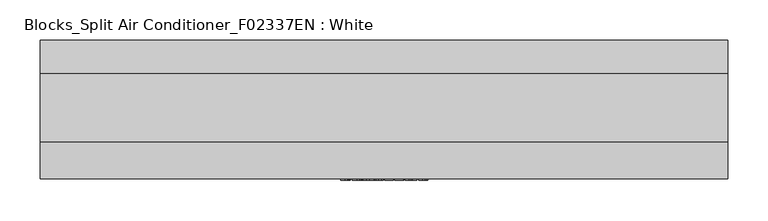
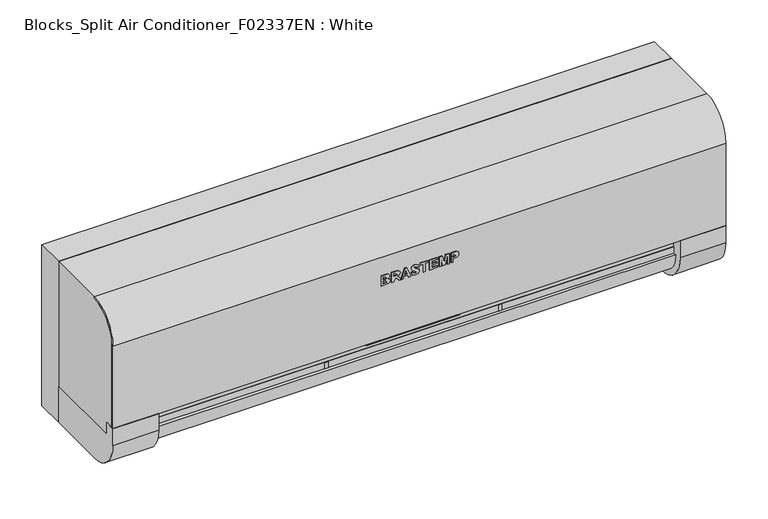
"""IFC4 building model written with IfcOpenShell, lengths in millimetres: proxy geometry, Blocks_Split Air Conditioner_F02337EN : White."""

from ifc_helpers import new_model, si_unit, point, frame, frame_2d, origin, place, context, project, spatial, polyline, circle_curve, trimmed, segment, composite_curve, outline, extrude, source, transform, mapped, element, save
from ifc_brep_helpers import plane_surface, cylinder_surface, advanced_brep


def blocks_split_air_conditioner_f02337en_white_d5d559fb(model_context):
    return source(origin(), model_context, "Body", "SolidModel", [
        extrude(outline(composite_curve([segment(polyline([(-156.1791575, 2042.9342407), (-156.1791575, 2052.456132), (-82.9717547, 2052.456132), (-82.9717547, 2006.7187838), (-124.6196044, 2006.7187838)]), True, "CONTINUOUS"), segment(trimmed(circle_curve(frame_2d((-124.6196044, 2042.9342407)), 36.2154568), [point((-124.6196044, 2006.7187838))], [point((-160.8350613, 2042.9342407))], False, "CARTESIAN"), True, "CONTINUOUS"), segment(polyline([(-160.8350613, 2042.9342407), (-156.1791575, 2042.9342407)]), True, "CONTINUOUS")], self_intersect=False)), frame((-361.7383279, 0.0, 0.0), z_axis=(1.0, 0.0, 0.0), x_axis=(0.0, 1.0, 0.0)), (0.0, 0.0, 1.0), 723.4766558),
        extrude(outline(composite_curve([segment(polyline([(-171.2689312, 2045.269321), (-171.2689312, 2070.0153894), (-156.1791575, 2070.0153894), (-156.1791575, 2052.456132), (-40.7423889, 2052.456132), (-40.7423889, 2000.0), (-125.9996102, 2000.0)]), True, "CONTINUOUS"), segment(trimmed(circle_curve(frame_2d((-125.9996102, 2045.269321)), 45.269321), [point((-125.9996102, 2000.0))], [point((-171.2689312, 2045.269321))], False, "CARTESIAN"), True, "CONTINUOUS")], self_intersect=False)), frame((-424.9999955, 0.0, 0.0), z_axis=(1.0, 0.0, 0.0), x_axis=(0.0, 1.0, 0.0)), (0.0, 0.0, 1.0), 63.2616676),
        extrude(outline(composite_curve([segment(polyline([(-171.2689312, 2045.269321), (-171.2689312, 2070.0153894), (-156.1791575, 2070.0153894), (-156.1791575, 2052.456132), (-40.7423889, 2052.456132), (-40.7423889, 2000.0), (-125.9996102, 2000.0)]), True, "CONTINUOUS"), segment(trimmed(circle_curve(frame_2d((-125.9996102, 2045.269321)), 45.269321), [point((-125.9996102, 2000.0))], [point((-171.2689312, 2045.269321))], False, "CARTESIAN"), True, "CONTINUOUS")], self_intersect=False)), frame((361.7383279, 0.0, 0.0), z_axis=(1.0, 0.0, 0.0), x_axis=(0.0, 1.0, 0.0)), (0.0, 0.0, 1.0), 63.2616766),
        extrude(outline(composite_curve([segment(polyline([(-169.0054652, 2190.885637), (-169.0054652, 2070.0153894), (-171.2689312, 2070.0153894), (-171.2689312, 2190.885637)]), True, "CONTINUOUS"), segment(trimmed(circle_curve(frame_2d((-125.9996102, 2190.885637)), 45.269321), [point((-171.2689312, 2190.885637))], [point((-125.9996102, 2236.154958))], False, "CARTESIAN"), True, "CONTINUOUS"), segment(polyline([(-125.9996102, 2236.154958), (-125.9996102, 2233.891492)]), True, "CONTINUOUS"), segment(trimmed(circle_curve(frame_2d((-125.9996102, 2190.885637)), 43.005855), [point((-125.9996102, 2233.891492))], [point((-169.0054652, 2190.885637))], True, "CARTESIAN"), True, "CONTINUOUS")], self_intersect=False)), frame((-424.9999955, 0.0, 0.0), z_axis=(1.0, 0.0, 0.0), x_axis=(0.0, 1.0, 0.0)), (0.0, 0.0, 1.0), 850.0),
        extrude(outline(polyline([(425.0000045, 0.0), (425.0000045, -40.7423889), (-424.9999955, -40.7423889), (-424.9999955, 0.0), (425.0000045, 0.0)])), frame((0.0, 0.0, 2000.0), z_axis=(0.0, 0.0, 1.0), x_axis=(1.0, 0.0, 0.0)), (0.0, 0.0, 1.0), 236.154958),
        extrude(outline(composite_curve([segment(trimmed(circle_curve(frame_2d((2062.1627686, 101.5576903)), 3.5), [point((2062.1627686, 98.0576903))], [point((2062.1627686, 105.0576903))], False, "CARTESIAN"), True, "CONTINUOUS"), segment(trimmed(circle_curve(frame_2d((2062.1627686, 101.5576903)), 3.5), [point((2062.1627686, 105.0576903))], [point((2062.1627686, 98.0576903))], False, "CARTESIAN"), True, "CONTINUOUS")], self_intersect=False)), frame((0.0, -156.9791575, 0.0), z_axis=(0.0, 1.0, 0.0), x_axis=(0.0, 0.0, 1.0)), (0.0, 0.0, 1.0), 0.8),
        extrude(outline(polyline([(-118.3159738, -156.9791575), (-122.8429114, -156.9791575), (-122.8429114, -156.1791575), (-118.3159738, -156.1791575), (-118.3159738, -156.9791575)])), frame((0.0, 0.0, 2042.9342407), z_axis=(0.0, 0.0, 1.0), x_axis=(1.0, 0.0, 0.0)), (0.0, 0.0, 1.0), 9.5218913),
        extrude(outline(polyline([(122.8429114, -156.9791575), (118.3159738, -156.9791575), (118.3159738, -156.1791575), (122.8429114, -156.1791575), (122.8429114, -156.9791575)])), frame((0.0, 0.0, 2042.9342407), z_axis=(0.0, 0.0, 1.0), x_axis=(1.0, 0.0, 0.0)), (0.0, 0.0, 1.0), 9.5218913),
        advanced_brep(
        [(425.0000045, -156.1791575, 2052.456132), (425.0000045, -40.7423889, 2052.456132), (425.0000045, -40.7423889, 2236.154958), (425.0000045, -125.9996102, 2236.154958), (425.0000045, -125.9996102, 2233.891492), (425.0000045, -169.0054652, 2190.885637), (425.0000045, -169.0054652, 2070.0153894), (425.0000045, -156.1791575, 2070.0153894), (-424.9999955, -156.1791575, 2052.456132), (-424.9999955, -156.1791575, 2070.0153894), (-424.9999955, -169.0054652, 2070.0153894), (-424.9999955, -169.0054652, 2190.885637), (-424.9999955, -125.9996102, 2233.891492), (-424.9999955, -125.9996102, 2236.154958), (-424.9999955, -40.7423889, 2236.154958), (-424.9999955, -40.7423889, 2052.456132), (-64.6063165, -156.1791575, 2068.0361982), (64.6063165, -156.1791575, 2068.0361982), (64.6063165, -156.1791575, 2056.2285754), (-64.6063165, -156.1791575, 2056.2285754), (64.6063165, -153.9156915, 2068.0361982), (-64.6063165, -153.9156915, 2068.0361982), (-64.6063165, -153.9156915, 2056.2285754), (64.6063165, -153.9156915, 2056.2285754)],
        [
            (0, 1),
            (1, 2),
            (2, 3),
            (3, 4),
            (4, 5, circle_curve(frame((425.0000045, -125.9996102, 2190.885637), z_axis=(1.0, 0.0, 0.0), x_axis=(0.0, 1.0, 0.0)), 43.005855)),
            (5, 6),
            (6, 7),
            (7, 0),
            (8, 9),
            (9, 10),
            (10, 11),
            (11, 12, circle_curve(frame((-424.9999955, -125.9996102, 2190.885637), z_axis=(-1.0, 0.0, 0.0), x_axis=(0.0, 1.0, 0.0)), 43.005855)),
            (12, 13),
            (13, 14),
            (14, 15),
            (15, 8),
            (0, 8),
            (15, 1),
            (14, 2),
            (13, 3),
            (12, 4),
            (11, 5),
            (10, 6),
            (9, 7),
            (16, 17),
            (17, 18),
            (18, 19),
            (19, 16),
            (20, 21),
            (21, 22),
            (22, 23),
            (23, 20),
            (20, 17),
            (16, 21),
            (19, 22),
            (18, 23),
        ],
        [
            plane_surface(frame((425.0000045, -40.7423889, 2052.456132), z_axis=(1.0, 0.0, 0.0), x_axis=(0.0, 1.0, 0.0))),
            plane_surface(frame((-424.9999955, -40.7423889, 2052.456132), z_axis=(-1.0, 0.0, 0.0), x_axis=(0.0, -1.0, 0.0))),
            plane_surface(frame((425.0000045, -156.1791575, 2052.456132), z_axis=(0.0, 0.0, -1.0), x_axis=(-1.0, 0.0, 0.0))),
            plane_surface(frame((425.0000045, -40.7423889, 2052.456132), z_axis=(0.0, 1.0, 0.0), x_axis=(-1.0, 0.0, 0.0))),
            plane_surface(frame((425.0000045, -40.7423889, 2236.154958), z_axis=(0.0, 0.0, 1.0), x_axis=(-1.0, 0.0, 0.0))),
            plane_surface(frame((425.0000045, -125.9996102, 2236.154958), z_axis=(0.0, -1.0, 0.0), x_axis=(-1.0, 0.0, 0.0))),
            cylinder_surface(frame((-424.9999955, -125.9996102, 2190.885637), z_axis=(1.0, 0.0, 0.0), x_axis=(0.0, 1.0, 0.0)), 43.005855),
            plane_surface(frame((425.0000045, -169.0054652, 2190.885637), z_axis=(0.0, -1.0, 0.0), x_axis=(-1.0, 0.0, 0.0))),
            plane_surface(frame((425.0000045, -169.0054652, 2070.0153894), z_axis=(0.0, 0.0, -1.0), x_axis=(-1.0, 0.0, 0.0))),
            plane_surface(frame((425.0000045, -156.1791575, 2070.0153894), z_axis=(0.0, -1.0, 0.0), x_axis=(-1.0, 0.0, 0.0))),
            plane_surface(frame((-64.6063165, -153.9156915, 2068.0361982), z_axis=(0.0, -1.0, 0.0), x_axis=(1.0, 0.0, 0.0))),
            plane_surface(frame((64.6063165, -156.1791575, 2068.0361982), z_axis=(0.0, 0.0, -1.0), x_axis=(0.0, 1.0, 0.0))),
            plane_surface(frame((-64.6063165, -156.1791575, 2068.0361982), z_axis=(1.0, 0.0, 0.0), x_axis=(0.0, 1.0, 0.0))),
            plane_surface(frame((-64.6063165, -156.1791575, 2056.2285754), z_axis=(0.0, 0.0, 1.0), x_axis=(0.0, 1.0, 0.0))),
            plane_surface(frame((64.6063165, -156.1791575, 2056.2285754), z_axis=(-1.0, 0.0, 0.0), x_axis=(0.0, 1.0, 0.0))),
        ],
        [
            (0, [[1, 2, 3, 4, 5, 6, 7, 8]]),
            (1, [[9, 10, 11, 12, 13, 14, 15, 16]]),
            (2, [[-1, 17, -16, 18]]),
            (3, [[-2, -18, -15, 19]]),
            (4, [[-3, -19, -14, 20]]),
            (5, [[-4, -20, -13, 21]]),
            (6, [[-5, -21, -12, 22]]),
            (7, [[-6, -22, -11, 23]]),
            (8, [[-7, -23, -10, 24]]),
            (9, [[-8, -24, -9, -17], [25, 26, 27, 28]]),
            (10, [[29, 30, 31, 32]]),
            (11, [[-29, 33, -25, 34]]),
            (12, [[-30, -34, -28, 35]]),
            (13, [[-31, -35, -27, 36]]),
            (14, [[-32, -36, -26, -33]]),
        ],
    ),
        extrude(outline(polyline([(2164.3752524, -53.5069374), (2150.0916208, -53.5069374), (2150.0916208, -48.6252796), (2150.1872702, -45.1323082), (2150.8621292, -43.18921), (2152.3252096, -41.9457688), (2154.2116267, -41.4905489), (2156.3548799, -42.1246685), (2157.6443745, -43.938463), (2158.909071, -42.4806965), (2160.7582912, -41.9439976), (2162.4392394, -42.3939036), (2163.6401697, -43.5186687), (2164.2335497, -45.0490578), (2164.3752524, -47.6439884), (2164.3752524, -53.5069374)]), holes=[polyline([(2161.881285, -50.7862457), (2161.881285, -48.9653661), (2158.753198, -46.4076324), (2158.7071447, -48.7103012), (2158.7071447, -50.7862457), (2161.881285, -50.7862457)]), polyline([(2156.2131772, -50.7862457), (2156.2131772, -48.2745654), (2152.6706099, -45.7770554), (2152.5855883, -47.909681), (2152.5855883, -50.7862457), (2156.2131772, -50.7862457)])]), frame((0.0, -172.8689312, 0.0), z_axis=(0.0, 1.0, 0.0), x_axis=(0.0, 0.0, 1.0)), (0.0, 0.0, 1.0), 1.6),
        extrude(outline(polyline([(2150.0916208, -39.2233058), (2150.0916208, -36.5026141), (2155.2903384, -33.3975538), (2153.3543254, -31.7732867), (2150.0916208, -29.7044273), (2150.0916208, -26.5267444), (2152.8619085, -28.2732301), (2155.1681199, -29.7894489), (2156.3584225, -31.2171036), (2157.6833427, -28.5513216), (2160.3508959, -27.660366), (2162.6145965, -28.2767727), (2163.9891126, -29.9205239), (2164.3752524, -33.2151116), (2164.3752524, -39.2233058), (2150.0916208, -39.2233058)]), holes=[polyline([(2158.4804204, -36.5026141), (2161.881285, -36.5026141), (2161.881285, -34.1361791), (2158.6451497, -31.5377059), (2158.4804204, -34.2601689), (2158.4804204, -36.5026141)])]), frame((0.0, -172.8689312, 0.0), z_axis=(0.0, 1.0, 0.0), x_axis=(0.0, 0.0, 1.0)), (0.0, 0.0, 1.0), 1.6),
        extrude(outline(polyline([(2150.0916208, -12.9232857), (2164.3752524, -18.1875408), (2164.3752524, -21.0853609), (2150.0916208, -26.3000201), (2150.0916208, -23.4022), (2153.2657612, -22.296919), (2153.2657612, -16.9015889), (2150.0916208, -15.7821376), (2150.0916208, -12.9232857)]), holes=[polyline([(2155.7597286, -17.7730604), (2155.7597286, -21.4254474), (2160.9743878, -19.6116529), (2155.7597286, -17.7730604)])]), frame((0.0, -172.8689312, 0.0), z_axis=(0.0, 1.0, 0.0), x_axis=(0.0, 0.0, 1.0)), (0.0, 0.0, 1.0), 1.6),
        extrude(outline(polyline([(2154.8528314, -12.2431128), (2151.1384495, -10.5178825), (2149.8648965, -6.3730787), (2150.3821114, -3.2786461), (2151.9620964, -1.3585746), (2154.2435098, -0.6801729), (2156.5001252, -1.2540688), (2157.9401788, -2.841139), (2158.946268, -5.9709973), (2161.6014222, -8.5942684), (2162.1080093, -6.5608348), (2161.631534, -4.6744176), (2160.0674905, -3.8543133), (2160.0674905, -1.1336216), (2163.3656207, -2.5559624), (2164.6019768, -6.5927179), (2164.1060173, -9.3948886), (2162.6641924, -11.1732575), (2160.6307587, -11.7896642), (2157.7648217, -10.4470311), (2156.3725928, -7.124103), (2152.9416163, -4.1306335), (2152.358864, -6.3022273), (2153.0177815, -8.4596509), (2155.0795557, -9.5224211), (2154.8528314, -12.2431128)])), frame((0.0, -172.8689312, 0.0), z_axis=(0.0, 1.0, 0.0), x_axis=(0.0, 0.0, 1.0)), (0.0, 0.0, 1.0), 1.6),
        extrude(outline(polyline([(2150.0916208, 4.7612105), (2150.0916208, 7.4819023), (2161.881285, 7.4819023), (2161.881285, 11.5629399), (2164.3752524, 11.5629399), (2164.3752524, 0.6801729), (2161.881285, 0.6801729), (2161.881285, 4.7612105), (2150.0916208, 4.7612105)])), frame((0.0, -172.8689312, 0.0), z_axis=(0.0, 1.0, 0.0), x_axis=(0.0, 0.0, 1.0)), (0.0, 0.0, 1.0), 1.6),
        extrude(outline(polyline([(2150.0916208, 13.3767344), (2150.0916208, 24.2595013), (2152.5855883, 24.2595013), (2152.5855883, 16.0974261), (2156.2131772, 16.0974261), (2156.2131772, 23.5793284), (2158.7071447, 23.5793284), (2158.7071447, 16.0974261), (2161.881285, 16.0974261), (2161.881285, 24.032777), (2164.3752524, 24.032777), (2164.3752524, 13.3767344), (2150.0916208, 13.3767344)])), frame((0.0, -172.8689312, 0.0), z_axis=(0.0, 1.0, 0.0), x_axis=(0.0, 0.0, 1.0)), (0.0, 0.0, 1.0), 1.6),
        extrude(outline(polyline([(2150.0916208, 26.5267444), (2150.0916208, 29.2474361), (2161.3357296, 29.3607983), (2150.0916208, 31.8512231), (2150.0916208, 35.0359912), (2161.3357296, 37.5228735), (2150.0916208, 37.6362356), (2150.0916208, 40.3569274), (2164.3752524, 40.3569274), (2164.3752524, 35.6949087), (2154.6331922, 33.4418359), (2164.3752524, 31.188763), (2164.3752524, 26.5267444), (2150.0916208, 26.5267444)])), frame((0.0, -172.8689312, 0.0), z_axis=(0.0, 1.0, 0.0), x_axis=(0.0, 0.0, 1.0)), (0.0, 0.0, 1.0), 1.6),
        extrude(outline(polyline([(2150.0916208, 43.0776191), (2150.0916208, 45.7983108), (2155.5330043, 45.7983108), (2155.5330043, 47.7042121), (2155.7349306, 50.7331072), (2156.4097897, 52.2475547), (2157.8091038, 53.4768256), (2160.0072669, 53.960386), (2162.7722407, 53.1367391), (2164.1626984, 51.0909065), (2164.3752524, 47.6794141), (2164.3752524, 43.0776191), (2150.0916208, 43.0776191)]), holes=[polyline([(2161.881285, 46.5440213), (2158.2395258, 49.9271731), (2158.0269717, 47.4881155), (2158.0269717, 45.7983108), (2161.881285, 46.5440213)])]), frame((0.0, -172.8689312, 0.0), z_axis=(0.0, 1.0, 0.0), x_axis=(0.0, 0.0, 1.0)), (0.0, 0.0, 1.0), 1.6),
    ])


if __name__ == "__main__":
    model = new_model("IFC4")
    model_context = context("Model", 3, world=origin())
    ifc_project = project(units=[si_unit("LENGTHUNIT", "METRE", prefix="MILLI")], contexts=[model_context])
    site = spatial("IfcSite", under=ifc_project)
    building = spatial("IfcBuilding", under=site)
    placement = place(None, origin())
    blocks_split_air_conditioner_f02337en_white_shape = blocks_split_air_conditioner_f02337en_white_d5d559fb(model_context)
    element("IfcBuildingElementProxy", 1, Name="Blocks_Split Air Conditioner_F02337EN : White", ObjectType="Blocks_Split Air Conditioner_F02337EN : White", at=placement, inside=building, context=model_context, shape_type="MappedRepresentation", body=[
        mapped(blocks_split_air_conditioner_f02337en_white_shape, transform((0.0, 0.0, 0.0), x_axis=(1.0, 0.0, 0.0), y_axis=(0.0, 1.0, 0.0), z_axis=(0.0, 0.0, 1.0))),
    ])
    save(model, "model.ifc")
